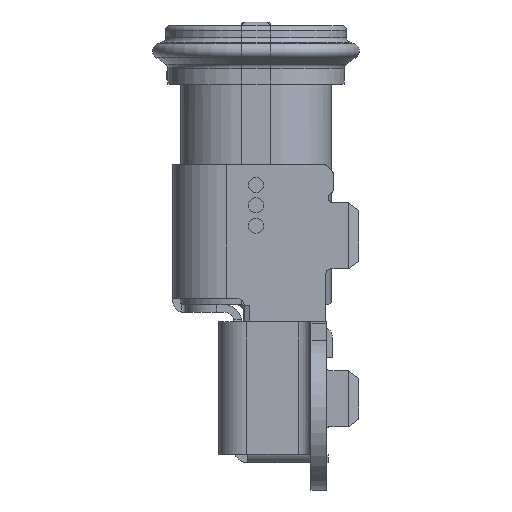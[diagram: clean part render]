
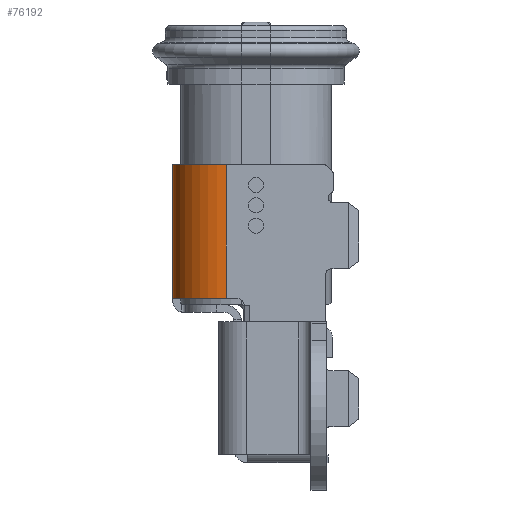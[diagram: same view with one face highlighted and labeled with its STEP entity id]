
A CAD part, left-side view. The second image highlights one B-rep face of the part: STEP entity #76192.
In plain terms, the highlighted cylindrical face has radius 1.05 mm (diameter 2.1 mm), a partial arc.
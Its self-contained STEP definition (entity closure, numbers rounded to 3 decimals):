
#1897 = CARTESIAN_POINT ( 'NONE',  ( -13.245, 3.858, 19.35 ) ) ;
#3209 = VECTOR ( 'NONE', #65589, 1000. ) ;
#10769 = CARTESIAN_POINT ( 'NONE',  ( -13.245, 3.858, 16.725 ) ) ;
#12790 = CIRCLE ( 'NONE', #46923, 1.05 ) ;
#12824 = EDGE_CURVE ( 'NONE', #73471, #34481, #37358, .T. ) ;
#13685 = EDGE_CURVE ( 'NONE', #34481, #19750, #188347, .T. ) ;
#19750 = VERTEX_POINT ( 'NONE', #10769 ) ;
#34481 = VERTEX_POINT ( 'NONE', #189820 ) ;
#37358 = LINE ( 'NONE', #154977, #3209 ) ;
#40784 = DIRECTION ( 'NONE',  ( 0., 0., -1. ) ) ;
#46923 = AXIS2_PLACEMENT_3D ( 'NONE', #68611, #143411, #69577 ) ;
#58540 = AXIS2_PLACEMENT_3D ( 'NONE', #145736, #40784, #131156 ) ;
#65589 = DIRECTION ( 'NONE',  ( 0., 0., -1. ) ) ;
#68611 = CARTESIAN_POINT ( 'NONE',  ( -13.245, 2.808, 19.35 ) ) ;
#69577 = DIRECTION ( 'NONE',  ( -1., 0., 0. ) ) ;
#72841 = FACE_OUTER_BOUND ( 'NONE', #139372, .T. ) ;
#73471 = VERTEX_POINT ( 'NONE', #126323 ) ;
#76192 = ADVANCED_FACE ( 'NONE', ( #72841 ), #87448, .T. ) ;
#77294 = DIRECTION ( 'NONE',  ( 0., 0., -1. ) ) ;
#79225 = CARTESIAN_POINT ( 'NONE',  ( -13.245, 3.858, 18.6 ) ) ;
#84689 = EDGE_CURVE ( 'NONE', #73471, #138151, #12790, .T. ) ;
#87448 = CYLINDRICAL_SURFACE ( 'NONE', #58540, 1.05 ) ;
#103272 = ORIENTED_EDGE ( 'NONE', *, *, #84689, .T. ) ;
#110091 = ORIENTED_EDGE ( 'NONE', *, *, #124044, .T. ) ;
#116156 = ORIENTED_EDGE ( 'NONE', *, *, #13685, .F. ) ;
#116513 = DIRECTION ( 'NONE',  ( 0., 0., -1. ) ) ;
#124044 = EDGE_CURVE ( 'NONE', #138151, #19750, #179332, .T. ) ;
#126323 = CARTESIAN_POINT ( 'NONE',  ( -14.295, 2.808, 19.35 ) ) ;
#127249 = CARTESIAN_POINT ( 'NONE',  ( -13.245, 2.808, 16.725 ) ) ;
#131156 = DIRECTION ( 'NONE',  ( 1., 0., 0. ) ) ;
#133972 = VECTOR ( 'NONE', #77294, 1000. ) ;
#138151 = VERTEX_POINT ( 'NONE', #1897 ) ;
#139372 = EDGE_LOOP ( 'NONE', ( #191072, #103272, #110091, #116156 ) ) ;
#143411 = DIRECTION ( 'NONE',  ( 0., 0., -1. ) ) ;
#145736 = CARTESIAN_POINT ( 'NONE',  ( -13.245, 2.808, 18.6 ) ) ;
#154977 = CARTESIAN_POINT ( 'NONE',  ( -14.295, 2.808, 18.6 ) ) ;
#172931 = DIRECTION ( 'NONE',  ( -1., 0., 0. ) ) ;
#175896 = AXIS2_PLACEMENT_3D ( 'NONE', #127249, #116513, #172931 ) ;
#179332 = LINE ( 'NONE', #79225, #133972 ) ;
#188347 = CIRCLE ( 'NONE', #175896, 1.05 ) ;
#189820 = CARTESIAN_POINT ( 'NONE',  ( -14.295, 2.808, 16.725 ) ) ;
#191072 = ORIENTED_EDGE ( 'NONE', *, *, #12824, .F. ) ;
